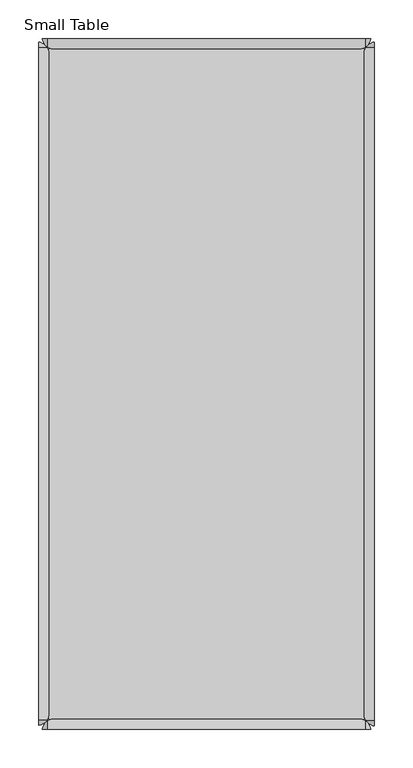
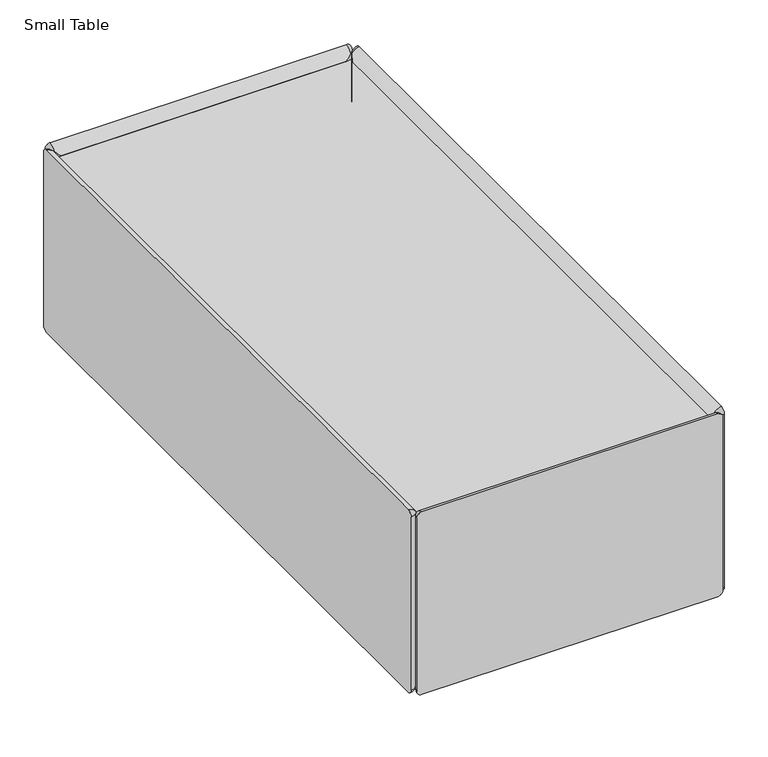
"""IFC4 building model written with IfcOpenShell, lengths in millimetres: furniture geometry, Stylex - Yoom Table : Small Table."""

from ifc_helpers import new_model, si_unit, point, frame, origin, place, context, project, spatial, polyline, circle_curve, ellipse_curve, trimmed, outline, extrude, source, transform, mapped, element, save
from ifc_brep_helpers import plane_surface, cylinder_surface, revolved_surface, advanced_brep


def small_table_ebca47c8(model_context):
    return source(origin(), model_context, "Body", "SolidModel", [
        advanced_brep(
        [(211.4098719, -444.5, 284.9798269), (211.4098719, -444.5, 32.6238748), (204.2643302, -433.6501466, 32.6238748), (197.1223719, -431.7512608, 39.765833), (197.1223719, -431.7512608, 277.8378687), (204.2643302, -433.6501466, 284.9798269), (204.2643302, -444.5, 25.478333), (-204.2643302, -444.5, 25.478333), (-204.2643302, -433.6501466, 32.6238748), (-197.1223719, -431.7512608, 39.765833), (-211.4098719, -444.5, 32.6238748), (-211.4098719, -444.5, 284.9798269), (-204.2643302, -433.6501466, 284.9798269), (-197.1223719, -431.7512608, 277.8378687), (204.2643302, -444.5, 292.1253687), (-204.2643302, -444.5, 292.1253687)],
        [
            (0, 1),
            (1, 2, circle_curve(frame((197.1223719, -446.1316243, 32.6238748), z_axis=(0.0, 0.0, 1.0), x_axis=(1.0, 0.0, 0.0)), 14.3803635)),
            (2, 3, ellipse_curve(frame((197.1223719, -446.1316243, 39.765833), z_axis=(0.7071067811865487, 0.0, 0.7071067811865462), x_axis=(-0.7071067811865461, 0.0, 0.7071067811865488)), 20.3369051, 14.3803635)),
            (3, 4),
            (4, 5, ellipse_curve(frame((197.1223719, -446.1316243, 277.8378687), z_axis=(0.7071067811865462, 0.0, -0.7071067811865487), x_axis=(0.7071067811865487, 0.0, 0.7071067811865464)), 20.3369051, 14.3803635)),
            (5, 0, circle_curve(frame((197.1223719, -446.1316243, 284.9798269), z_axis=(0.0, 0.0, -1.0), x_axis=(1.0, 0.0, 0.0)), 14.3803635)),
            (2, 6, circle_curve(frame((204.2643302, -446.1316243, 39.765833), z_axis=(-1.0, 0.0, 0.0), x_axis=(0.0, 0.0, -1.0)), 14.3803635)),
            (6, 7),
            (7, 8, circle_curve(frame((-204.2643302, -446.1316243, 39.765833), z_axis=(1.0, 0.0, 0.0), x_axis=(0.0, 0.0, -1.0)), 14.3803635)),
            (8, 9, ellipse_curve(frame((-197.1223719, -446.1316243, 39.765833), z_axis=(0.7071067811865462, 0.0, -0.7071067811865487), x_axis=(0.7071067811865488, 0.0, 0.7071067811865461)), 20.3369051, 14.3803635)),
            (9, 3),
            (8, 10, circle_curve(frame((-197.1223719, -446.1316243, 32.6238748), z_axis=(0.0, 0.0, 1.0), x_axis=(-1.0, 0.0, 0.0)), 14.3803635)),
            (10, 11),
            (11, 12, circle_curve(frame((-197.1223719, -446.1316243, 284.9798269), z_axis=(0.0, 0.0, -1.0), x_axis=(-1.0, 0.0, 0.0)), 14.3803635)),
            (12, 13, ellipse_curve(frame((-197.1223719, -446.1316243, 277.8378687), z_axis=(-0.7071067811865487, 0.0, -0.7071067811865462), x_axis=(0.7071067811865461, 0.0, -0.7071067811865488)), 20.3369051, 14.3803635)),
            (13, 9),
            (0, 14, circle_curve(frame((204.2643302, -444.5, 284.9798269), z_axis=(0.0, -1.0, 0.0), x_axis=(0.0, 0.0, 1.0)), 7.1455418)),
            (14, 15),
            (15, 11, circle_curve(frame((-204.2643302, -444.5, 284.9798269), z_axis=(0.0, -1.0, 0.0), x_axis=(0.0, 0.0, 1.0)), 7.1455418)),
            (10, 7, circle_curve(frame((-204.2643302, -444.5, 32.6238748), z_axis=(0.0, -1.0, 0.0), x_axis=(0.0, 0.0, -1.0)), 7.1455418)),
            (6, 1, circle_curve(frame((204.2643302, -444.5, 32.6238748), z_axis=(0.0, -1.0, 0.0), x_axis=(0.0, 0.0, -1.0)), 7.1455418)),
            (12, 15, circle_curve(frame((-204.2643302, -446.1316243, 277.8378687), z_axis=(1.0, 0.0, 0.0), x_axis=(0.0, 0.0, 1.0)), 14.3803635)),
            (14, 5, circle_curve(frame((204.2643302, -446.1316243, 277.8378687), z_axis=(-1.0, 0.0, 0.0), x_axis=(0.0, 0.0, 1.0)), 14.3803635)),
            (4, 13),
        ],
        [
            cylinder_surface(frame((197.1223719, -446.1316243, 277.8378687), z_axis=(0.0, 0.0, 1.0), x_axis=(1.0, 0.0, 0.0)), 14.3803635),
            cylinder_surface(frame((197.1223719, -446.1316243, 39.765833), z_axis=(1.0, 0.0, 0.0), x_axis=(0.0, 0.0, -1.0)), 14.3803635),
            cylinder_surface(frame((-197.1223719, -446.1316243, 39.765833), z_axis=(0.0, 0.0, -1.0), x_axis=(-1.0, 0.0, 0.0)), 14.3803635),
            plane_surface(frame((-197.1223719, -444.5, 277.8378687), z_axis=(0.0, -1.0, 0.0), x_axis=(1.0, 0.0, 0.0))),
            cylinder_surface(frame((-197.1223719, -446.1316243, 277.8378687), z_axis=(-1.0, 0.0, 0.0), x_axis=(0.0, 0.0, 1.0)), 14.3803635),
            revolved_surface(trimmed(ellipse_curve(frame((-204.2643302, -446.1316243, 277.8378687), z_axis=(-1.0, 0.0, 0.0), x_axis=(0.0, 0.0, -1.0)), 14.3803635, 14.3803635), [point((-204.2643302, -444.5, 292.1253687))], [point((-204.2643302, -433.6501466, 284.9798269))], True, "CARTESIAN"), (-204.2643302, -431.7512608, 284.9798269), (0.0, 1.0, 0.0)),
            plane_surface(frame((-197.1223719, -431.7512608, 277.8378687), z_axis=(0.0, 1.0, 0.0), x_axis=(1.0, 0.0, 0.0))),
            revolved_surface(trimmed(ellipse_curve(frame((-204.2643302, -446.1316243, 39.765833), z_axis=(-1.0, 0.0, 0.0), x_axis=(0.0, 0.0, 1.0)), 14.3803635, 14.3803635), [point((-204.2643302, -433.6501466, 32.6238748))], [point((-204.2643302, -444.5, 25.478333))], True, "CARTESIAN"), (-204.2643302, -431.7512608, 32.6238748), (0.0, -1.0, 0.0)),
            revolved_surface(trimmed(ellipse_curve(frame((204.2643302, -446.1316243, 39.765833), z_axis=(1.0, 0.0, 0.0), x_axis=(0.0, 0.0, -1.0)), 14.3803635, 14.3803635), [point((204.2643302, -444.5, 25.478333))], [point((204.2643302, -433.6501466, 32.6238748))], True, "CARTESIAN"), (204.2643302, -431.7512608, 32.6238748), (0.0, 1.0, 0.0)),
            revolved_surface(trimmed(ellipse_curve(frame((204.2643302, -446.1316243, 277.8378687), z_axis=(1.0, 0.0, 0.0), x_axis=(0.0, 0.0, -1.0)), 14.3803635, 14.3803635), [point((204.2643302, -433.6501466, 284.9798269))], [point((204.2643302, -444.5, 292.1253687))], True, "CARTESIAN"), (204.2643302, -431.7512608, 284.9798269), (0.0, -1.0, 0.0)),
        ],
        [
            (0, [[1, 2, 3, 4, 5, 6]]),
            (1, [[-3, 7, 8, 9, 10, 11]]),
            (2, [[-10, 12, 13, 14, 15, 16]]),
            (3, [[-1, 17, 18, 19, -13, 20, -8, 21]]),
            (4, [[-15, 22, -18, 23, -5, 24]]),
            (5, [[-19, -22, -14]]),
            (6, [[-4, -11, -16, -24]]),
            (7, [[-20, -12, -9]]),
            (8, [[-21, -7, -2]]),
            (9, [[-17, -6, -23]]),
        ],
    ),
        advanced_brep(
        [(-211.4098719, 444.5, 284.9798269), (-211.4098719, 444.5, 32.6238748), (-204.2643302, 433.6501466, 32.6238748), (-197.1223719, 431.7512608, 39.765833), (-197.1223719, 431.7512608, 277.8378687), (-204.2643302, 433.6501466, 284.9798269), (-204.2643302, 444.5, 25.478333), (204.2643302, 444.5, 25.478333), (204.2643302, 433.6501466, 32.6238748), (197.1223719, 431.7512608, 39.765833), (211.4098719, 444.5, 32.6238748), (211.4098719, 444.5, 284.9798269), (204.2643302, 433.6501466, 284.9798269), (197.1223719, 431.7512608, 277.8378687), (-204.2643302, 444.5, 292.1253687), (204.2643302, 444.5, 292.1253687)],
        [
            (0, 1),
            (1, 2, circle_curve(frame((-197.1223719, 446.1316243, 32.6238748), z_axis=(0.0, 0.0, 1.0), x_axis=(-1.0, 0.0, 0.0)), 14.3803635)),
            (2, 3, ellipse_curve(frame((-197.1223719, 446.1316243, 39.765833), z_axis=(-0.7071067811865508, 0.0, 0.7071067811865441), x_axis=(0.7071067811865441, 0.0, 0.7071067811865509)), 20.3369051, 14.3803635)),
            (3, 4),
            (4, 5, ellipse_curve(frame((-197.1223719, 446.1316243, 277.8378687), z_axis=(-0.7071067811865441, 0.0, -0.7071067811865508), x_axis=(-0.7071067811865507, 0.0, 0.7071067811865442)), 20.3369051, 14.3803635)),
            (5, 0, circle_curve(frame((-197.1223719, 446.1316243, 284.9798269), z_axis=(0.0, 0.0, -1.0), x_axis=(-1.0, 0.0, 0.0)), 14.3803635)),
            (2, 6, circle_curve(frame((-204.2643302, 446.1316243, 39.765833), z_axis=(1.0, 0.0, 0.0), x_axis=(0.0, 0.0, -1.0)), 14.3803635)),
            (6, 7),
            (7, 8, circle_curve(frame((204.2643302, 446.1316243, 39.765833), z_axis=(-1.0, 0.0, 0.0), x_axis=(0.0, 0.0, -1.0)), 14.3803635)),
            (8, 9, ellipse_curve(frame((197.1223719, 446.1316243, 39.765833), z_axis=(-0.7071067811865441, 0.0, -0.7071067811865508), x_axis=(-0.7071067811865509, 0.0, 0.7071067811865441)), 20.3369051, 14.3803635)),
            (9, 3),
            (8, 10, circle_curve(frame((197.1223719, 446.1316243, 32.6238748), z_axis=(0.0, 0.0, 1.0), x_axis=(1.0, 0.0, 0.0)), 14.3803635)),
            (10, 11),
            (11, 12, circle_curve(frame((197.1223719, 446.1316243, 284.9798269), z_axis=(0.0, 0.0, -1.0), x_axis=(1.0, 0.0, 0.0)), 14.3803635)),
            (12, 13, ellipse_curve(frame((197.1223719, 446.1316243, 277.8378687), z_axis=(0.7071067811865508, 0.0, -0.7071067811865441), x_axis=(-0.7071067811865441, 0.0, -0.7071067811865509)), 20.3369051, 14.3803635)),
            (13, 9),
            (0, 14, circle_curve(frame((-204.2643302, 444.5, 284.9798269), z_axis=(0.0, 1.0, 0.0), x_axis=(0.0, 0.0, 1.0)), 7.1455418)),
            (14, 15),
            (15, 11, circle_curve(frame((204.2643302, 444.5, 284.9798269), z_axis=(0.0, 1.0, 0.0), x_axis=(0.0, 0.0, 1.0)), 7.1455418)),
            (10, 7, circle_curve(frame((204.2643302, 444.5, 32.6238748), z_axis=(0.0, 1.0, 0.0), x_axis=(0.0, 0.0, -1.0)), 7.1455418)),
            (6, 1, circle_curve(frame((-204.2643302, 444.5, 32.6238748), z_axis=(0.0, 1.0, 0.0), x_axis=(0.0, 0.0, -1.0)), 7.1455418)),
            (12, 15, circle_curve(frame((204.2643302, 446.1316243, 277.8378687), z_axis=(-1.0, 0.0, 0.0), x_axis=(0.0, 0.0, 1.0)), 14.3803635)),
            (14, 5, circle_curve(frame((-204.2643302, 446.1316243, 277.8378687), z_axis=(1.0, 0.0, 0.0), x_axis=(0.0, 0.0, 1.0)), 14.3803635)),
            (4, 13),
        ],
        [
            cylinder_surface(frame((-197.1223719, 446.1316243, 277.8378687), z_axis=(0.0, 0.0, 1.0), x_axis=(-1.0, 0.0, 0.0)), 14.3803635),
            cylinder_surface(frame((-197.1223719, 446.1316243, 39.765833), z_axis=(-1.0, 0.0, 0.0), x_axis=(0.0, 0.0, -1.0)), 14.3803635),
            cylinder_surface(frame((197.1223719, 446.1316243, 39.765833), z_axis=(0.0, 0.0, -1.0), x_axis=(1.0, 0.0, 0.0)), 14.3803635),
            plane_surface(frame((197.1223719, 444.5, 277.8378687), z_axis=(0.0, 1.0, 0.0), x_axis=(-1.0, 0.0, 0.0))),
            cylinder_surface(frame((197.1223719, 446.1316243, 277.8378687), z_axis=(1.0, 0.0, 0.0), x_axis=(0.0, 0.0, 1.0)), 14.3803635),
            revolved_surface(trimmed(ellipse_curve(frame((204.2643302, 446.1316243, 277.8378687), z_axis=(1.0, 0.0, 0.0), x_axis=(0.0, 0.0, -1.0)), 14.3803635, 14.3803635), [point((204.2643302, 444.5, 292.1253687))], [point((204.2643302, 433.6501466, 284.9798269))], True, "CARTESIAN"), (204.2643302, 431.7512608, 284.9798269), (0.0, -1.0, 0.0)),
            plane_surface(frame((197.1223719, 431.7512608, 277.8378687), z_axis=(0.0, -1.0, 0.0), x_axis=(-1.0, 0.0, 0.0))),
            revolved_surface(trimmed(ellipse_curve(frame((204.2643302, 446.1316243, 39.765833), z_axis=(1.0, 0.0, 0.0), x_axis=(0.0, 0.0, 1.0)), 14.3803635, 14.3803635), [point((204.2643302, 433.6501466, 32.6238748))], [point((204.2643302, 444.5, 25.478333))], True, "CARTESIAN"), (204.2643302, 431.7512608, 32.6238748), (0.0, 1.0, 0.0)),
            revolved_surface(trimmed(ellipse_curve(frame((-204.2643302, 446.1316243, 39.765833), z_axis=(-1.0, 0.0, 0.0), x_axis=(0.0, 0.0, -1.0)), 14.3803635, 14.3803635), [point((-204.2643302, 444.5, 25.478333))], [point((-204.2643302, 433.6501466, 32.6238748))], True, "CARTESIAN"), (-204.2643302, 431.7512608, 32.6238748), (0.0, -1.0, 0.0)),
            revolved_surface(trimmed(ellipse_curve(frame((-204.2643302, 446.1316243, 277.8378687), z_axis=(-1.0, 0.0, 0.0), x_axis=(0.0, 0.0, -1.0)), 14.3803635, 14.3803635), [point((-204.2643302, 433.6501466, 284.9798269))], [point((-204.2643302, 444.5, 292.1253687))], True, "CARTESIAN"), (-204.2643302, 431.7512608, 284.9798269), (0.0, 1.0, 0.0)),
        ],
        [
            (0, [[1, 2, 3, 4, 5, 6]]),
            (1, [[-3, 7, 8, 9, 10, 11]]),
            (2, [[-10, 12, 13, 14, 15, 16]]),
            (3, [[-1, 17, 18, 19, -13, 20, -8, 21]]),
            (4, [[-15, 22, -18, 23, -5, 24]]),
            (5, [[-19, -22, -14]]),
            (6, [[-4, -11, -16, -24]]),
            (7, [[-20, -12, -9]]),
            (8, [[-21, -7, -2]]),
            (9, [[-17, -6, -23]]),
        ],
    ),
        advanced_brep(
        [(-215.9, 440.0098719, 32.6238748), (-215.9, 440.0098719, 284.9798269), (-205.0501466, 432.8643302, 284.9798269), (-203.1512608, 425.7223719, 277.8378687), (-203.1512608, 425.7223719, 39.765833), (-205.0501466, 432.8643302, 32.6238748), (-215.9, 432.8643302, 292.1253687), (-215.9, -432.1193193, 292.1253687), (-205.0501466, -432.1193193, 284.9798269), (-203.1512608, -424.9773611, 277.8378687), (-215.9, -439.2648611, 284.9798269), (-215.9, -439.2648611, 32.6238748), (-205.0501466, -432.1193193, 32.6238748), (-203.1512608, -424.9773611, 39.765833), (-215.9, 432.8643302, 25.478333), (-215.9, -432.1193193, 25.478333)],
        [
            (0, 1),
            (1, 2, circle_curve(frame((-217.5316243, 425.7223719, 284.9798269), z_axis=(0.0, 0.0, -1.0), x_axis=(0.0, 1.0, 0.0)), 14.3803635)),
            (2, 3, ellipse_curve(frame((-217.5316243, 425.7223719, 277.8378687), z_axis=(0.0, 0.7071067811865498, -0.7071067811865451), x_axis=(0.0, -0.7071067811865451, -0.70710678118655)), 20.3369051, 14.3803635)),
            (3, 4),
            (4, 5, ellipse_curve(frame((-217.5316243, 425.7223719, 39.765833), z_axis=(0.0, 0.7071067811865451, 0.7071067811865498), x_axis=(0.0, 0.7071067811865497, -0.7071067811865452)), 20.3369051, 14.3803635)),
            (5, 0, circle_curve(frame((-217.5316243, 425.7223719, 32.6238748), z_axis=(0.0, 0.0, 1.0), x_axis=(0.0, 1.0, 0.0)), 14.3803635)),
            (2, 6, circle_curve(frame((-217.5316243, 432.8643302, 277.8378687), z_axis=(0.0, -1.0, 0.0), x_axis=(0.0, 0.0, 1.0)), 14.3803635)),
            (6, 7),
            (7, 8, circle_curve(frame((-217.5316243, -432.1193193, 277.8378687), z_axis=(0.0, 1.0, 0.0), x_axis=(0.0, 0.0, 1.0)), 14.3803635)),
            (8, 9, ellipse_curve(frame((-217.5316243, -424.9773611, 277.8378687), z_axis=(0.0, 0.7071067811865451, 0.7071067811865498), x_axis=(0.0, 0.70710678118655, -0.7071067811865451)), 20.3369051, 14.3803635)),
            (9, 3),
            (8, 10, circle_curve(frame((-217.5316243, -424.9773611, 284.9798269), z_axis=(0.0, 0.0, -1.0), x_axis=(0.0, -1.0, 0.0)), 14.3803635)),
            (10, 11),
            (11, 12, circle_curve(frame((-217.5316243, -424.9773611, 32.6238748), z_axis=(0.0, 0.0, 1.0), x_axis=(0.0, -1.0, 0.0)), 14.3803635)),
            (12, 13, ellipse_curve(frame((-217.5316243, -424.9773611, 39.765833), z_axis=(0.0, -0.7071067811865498, 0.7071067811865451), x_axis=(0.0, 0.7071067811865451, 0.70710678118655)), 20.3369051, 14.3803635)),
            (13, 9),
            (0, 14, circle_curve(frame((-215.9, 432.8643302, 32.6238748), z_axis=(-1.0, 0.0, 0.0), x_axis=(0.0, 0.0, -1.0)), 7.1455418)),
            (14, 15),
            (15, 11, circle_curve(frame((-215.9, -432.1193193, 32.6238748), z_axis=(-1.0, 0.0, 0.0), x_axis=(0.0, 0.0, -1.0)), 7.1455418)),
            (10, 7, circle_curve(frame((-215.9, -432.1193193, 284.9798269), z_axis=(-1.0, 0.0, 0.0), x_axis=(0.0, 0.0, 1.0)), 7.1455418)),
            (6, 1, circle_curve(frame((-215.9, 432.8643302, 284.9798269), z_axis=(-1.0, 0.0, 0.0), x_axis=(0.0, 0.0, 1.0)), 7.1455418)),
            (12, 15, circle_curve(frame((-217.5316243, -432.1193193, 39.765833), z_axis=(0.0, 1.0, 0.0), x_axis=(0.0, 0.0, -1.0)), 14.3803635)),
            (14, 5, circle_curve(frame((-217.5316243, 432.8643302, 39.765833), z_axis=(0.0, -1.0, 0.0), x_axis=(0.0, 0.0, -1.0)), 14.3803635)),
            (4, 13),
        ],
        [
            cylinder_surface(frame((-217.5316243, 425.7223719, 39.765833), z_axis=(0.0, 0.0, -1.0), x_axis=(0.0, 1.0, 0.0)), 14.3803635),
            cylinder_surface(frame((-217.5316243, 425.7223719, 277.8378687), z_axis=(0.0, 1.0, 0.0), x_axis=(0.0, 0.0, 1.0)), 14.3803635),
            cylinder_surface(frame((-217.5316243, -424.9773611, 277.8378687), z_axis=(0.0, 0.0, 1.0), x_axis=(0.0, -1.0, 0.0)), 14.3803635),
            plane_surface(frame((-215.9, -424.9773611, 39.765833), z_axis=(-1.0, 0.0, 0.0), x_axis=(0.0, 1.0, 0.0))),
            cylinder_surface(frame((-217.5316243, -424.9773611, 39.765833), z_axis=(0.0, -1.0, 0.0), x_axis=(0.0, 0.0, -1.0)), 14.3803635),
            revolved_surface(trimmed(ellipse_curve(frame((-217.5316243, -432.1193193, 39.765833), z_axis=(0.0, -1.0, 0.0), x_axis=(0.0, 0.0, 1.0)), 14.3803635, 14.3803635), [point((-215.9, -432.1193193, 25.478333))], [point((-205.0501466, -432.1193193, 32.6238748))], True, "CARTESIAN"), (-203.1512608, -432.1193193, 32.6238748), (1.0, 0.0, 0.0)),
            plane_surface(frame((-203.1512608, -424.9773611, 39.765833), z_axis=(1.0, 0.0, 0.0), x_axis=(0.0, 1.0, 0.0))),
            revolved_surface(trimmed(ellipse_curve(frame((-217.5316243, -432.1193193, 277.8378687), z_axis=(0.0, -1.0, 0.0), x_axis=(0.0, 0.0, -1.0)), 14.3803635, 14.3803635), [point((-205.0501466, -432.1193193, 284.9798269))], [point((-215.9, -432.1193193, 292.1253687))], True, "CARTESIAN"), (-203.1512608, -432.1193193, 284.9798269), (-1.0, 0.0, 0.0)),
            revolved_surface(trimmed(ellipse_curve(frame((-217.5316243, 432.8643302, 277.8378687), z_axis=(0.0, 1.0, 0.0), x_axis=(0.0, 0.0, 1.0)), 14.3803635, 14.3803635), [point((-215.9, 432.8643302, 292.1253687))], [point((-205.0501466, 432.8643302, 284.9798269))], True, "CARTESIAN"), (-203.1512608, 432.8643302, 284.9798269), (1.0, 0.0, 0.0)),
            revolved_surface(trimmed(ellipse_curve(frame((-217.5316243, 432.8643302, 39.765833), z_axis=(0.0, 1.0, 0.0), x_axis=(0.0, 0.0, 1.0)), 14.3803635, 14.3803635), [point((-205.0501466, 432.8643302, 32.6238748))], [point((-215.9, 432.8643302, 25.478333))], True, "CARTESIAN"), (-203.1512608, 432.8643302, 32.6238748), (-1.0, 0.0, 0.0)),
        ],
        [
            (0, [[1, 2, 3, 4, 5, 6]]),
            (1, [[-3, 7, 8, 9, 10, 11]]),
            (2, [[-10, 12, 13, 14, 15, 16]]),
            (3, [[-1, 17, 18, 19, -13, 20, -8, 21]]),
            (4, [[-15, 22, -18, 23, -5, 24]]),
            (5, [[-19, -22, -14]]),
            (6, [[-4, -11, -16, -24]]),
            (7, [[-20, -12, -9]]),
            (8, [[-21, -7, -2]]),
            (9, [[-17, -6, -23]]),
        ],
    ),
        advanced_brep(
        [(215.9, -440.0098719, 32.4979399), (215.9, -440.0098719, 284.8538921), (205.0501466, -432.8643302, 284.8538921), (203.1512608, -425.7223719, 277.7119339), (203.1512608, -425.7223719, 39.6398982), (205.0501466, -432.8643302, 32.4979399), (215.9, -432.8643302, 291.9994339), (215.9, 432.8643302, 291.9994339), (205.0501466, 432.8643302, 284.8538921), (203.1512608, 425.7223719, 277.7119339), (215.9, 440.0098719, 284.8538921), (215.9, 440.0098719, 32.4979399), (205.0501466, 432.8643302, 32.4979399), (203.1512608, 425.7223719, 39.6398982), (215.9, -432.8643302, 25.3523982), (215.9, 432.8643302, 25.3523982)],
        [
            (0, 1),
            (1, 2, circle_curve(frame((217.5316243, -425.7223719, 284.8538921), z_axis=(0.0, 0.0, -1.0), x_axis=(0.0, -1.0, 0.0)), 14.3803635)),
            (2, 3, ellipse_curve(frame((217.5316243, -425.7223719, 277.7119339), z_axis=(0.0, -0.7071067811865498, -0.7071067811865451), x_axis=(0.0, 0.7071067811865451, -0.70710678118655)), 20.3369051, 14.3803635)),
            (3, 4),
            (4, 5, ellipse_curve(frame((217.5316243, -425.7223719, 39.6398982), z_axis=(0.0, -0.7071067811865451, 0.7071067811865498), x_axis=(0.0, -0.7071067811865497, -0.7071067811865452)), 20.3369051, 14.3803635)),
            (5, 0, circle_curve(frame((217.5316243, -425.7223719, 32.4979399), z_axis=(0.0, 0.0, 1.0), x_axis=(0.0, -1.0, 0.0)), 14.3803635)),
            (2, 6, circle_curve(frame((217.5316243, -432.8643302, 277.7119339), z_axis=(0.0, 1.0, 0.0), x_axis=(0.0, 0.0, 1.0)), 14.3803635)),
            (6, 7),
            (7, 8, circle_curve(frame((217.5316243, 432.8643302, 277.7119339), z_axis=(0.0, -1.0, 0.0), x_axis=(0.0, 0.0, 1.0)), 14.3803635)),
            (8, 9, ellipse_curve(frame((217.5316243, 425.7223719, 277.7119339), z_axis=(0.0, -0.7071067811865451, 0.7071067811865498), x_axis=(0.0, -0.70710678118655, -0.7071067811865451)), 20.3369051, 14.3803635)),
            (9, 3),
            (8, 10, circle_curve(frame((217.5316243, 425.7223719, 284.8538921), z_axis=(0.0, 0.0, -1.0), x_axis=(0.0, 1.0, 0.0)), 14.3803635)),
            (10, 11),
            (11, 12, circle_curve(frame((217.5316243, 425.7223719, 32.4979399), z_axis=(0.0, 0.0, 1.0), x_axis=(0.0, 1.0, 0.0)), 14.3803635)),
            (12, 13, ellipse_curve(frame((217.5316243, 425.7223719, 39.6398982), z_axis=(0.0, 0.7071067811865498, 0.7071067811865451), x_axis=(0.0, -0.7071067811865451, 0.70710678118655)), 20.3369051, 14.3803635)),
            (13, 9),
            (0, 14, circle_curve(frame((215.9, -432.8643302, 32.4979399), z_axis=(1.0, 0.0, 0.0), x_axis=(0.0, 0.0, -1.0)), 7.1455418)),
            (14, 15),
            (15, 11, circle_curve(frame((215.9, 432.8643302, 32.4979399), z_axis=(1.0, 0.0, 0.0), x_axis=(0.0, 0.0, -1.0)), 7.1455418)),
            (10, 7, circle_curve(frame((215.9, 432.8643302, 284.8538921), z_axis=(1.0, 0.0, 0.0), x_axis=(0.0, 0.0, 1.0)), 7.1455418)),
            (6, 1, circle_curve(frame((215.9, -432.8643302, 284.8538921), z_axis=(1.0, 0.0, 0.0), x_axis=(0.0, 0.0, 1.0)), 7.1455418)),
            (12, 15, circle_curve(frame((217.5316243, 432.8643302, 39.6398982), z_axis=(0.0, -1.0, 0.0), x_axis=(0.0, 0.0, -1.0)), 14.3803635)),
            (14, 5, circle_curve(frame((217.5316243, -432.8643302, 39.6398982), z_axis=(0.0, 1.0, 0.0), x_axis=(0.0, 0.0, -1.0)), 14.3803635)),
            (4, 13),
        ],
        [
            cylinder_surface(frame((217.5316243, -425.7223719, 39.6398982), z_axis=(0.0, 0.0, -1.0), x_axis=(0.0, -1.0, 0.0)), 14.3803635),
            cylinder_surface(frame((217.5316243, -425.7223719, 277.7119339), z_axis=(0.0, -1.0, 0.0), x_axis=(0.0, 0.0, 1.0)), 14.3803635),
            cylinder_surface(frame((217.5316243, 425.7223719, 277.7119339), z_axis=(0.0, 0.0, 1.0), x_axis=(0.0, 1.0, 0.0)), 14.3803635),
            plane_surface(frame((215.9, 425.7223719, 39.6398982), z_axis=(1.0, 0.0, 0.0), x_axis=(0.0, -1.0, 0.0))),
            cylinder_surface(frame((217.5316243, 425.7223719, 39.6398982), z_axis=(0.0, 1.0, 0.0), x_axis=(0.0, 0.0, -1.0)), 14.3803635),
            revolved_surface(trimmed(ellipse_curve(frame((217.5316243, 432.8643302, 39.6398982), z_axis=(0.0, 1.0, 0.0), x_axis=(0.0, 0.0, 1.0)), 14.3803635, 14.3803635), [point((215.9, 432.8643302, 25.3523982))], [point((205.0501466, 432.8643302, 32.4979399))], True, "CARTESIAN"), (203.1512608, 432.8643302, 32.4979399), (-1.0, 0.0, 0.0)),
            plane_surface(frame((203.1512608, 425.7223719, 39.6398982), z_axis=(-1.0, 0.0, 0.0), x_axis=(0.0, -1.0, 0.0))),
            revolved_surface(trimmed(ellipse_curve(frame((217.5316243, 432.8643302, 277.7119339), z_axis=(0.0, 1.0, 0.0), x_axis=(0.0, 0.0, -1.0)), 14.3803635, 14.3803635), [point((205.0501466, 432.8643302, 284.8538921))], [point((215.9, 432.8643302, 291.9994339))], True, "CARTESIAN"), (203.1512608, 432.8643302, 284.8538921), (1.0, 0.0, 0.0)),
            revolved_surface(trimmed(ellipse_curve(frame((217.5316243, -432.8643302, 277.7119339), z_axis=(0.0, -1.0, 0.0), x_axis=(0.0, 0.0, 1.0)), 14.3803635, 14.3803635), [point((215.9, -432.8643302, 291.9994339))], [point((205.0501466, -432.8643302, 284.8538921))], True, "CARTESIAN"), (203.1512608, -432.8643302, 284.8538921), (-1.0, 0.0, 0.0)),
            revolved_surface(trimmed(ellipse_curve(frame((217.5316243, -432.8643302, 39.6398982), z_axis=(0.0, -1.0, 0.0), x_axis=(0.0, 0.0, 1.0)), 14.3803635, 14.3803635), [point((205.0501466, -432.8643302, 32.4979399))], [point((215.9, -432.8643302, 25.3523982))], True, "CARTESIAN"), (203.1512608, -432.8643302, 32.4979399), (1.0, 0.0, 0.0)),
        ],
        [
            (0, [[1, 2, 3, 4, 5, 6]]),
            (1, [[-3, 7, 8, 9, 10, 11]]),
            (2, [[-10, 12, 13, 14, 15, 16]]),
            (3, [[-1, 17, 18, 19, -13, 20, -8, 21]]),
            (4, [[-15, 22, -18, 23, -5, 24]]),
            (5, [[-19, -22, -14]]),
            (6, [[-4, -11, -16, -24]]),
            (7, [[-20, -12, -9]]),
            (8, [[-21, -7, -2]]),
            (9, [[-17, -6, -23]]),
        ],
    ),
        advanced_brep(
        [(-72.8292652, -339.725, 32.7025006), (-136.7725901, -339.725, 32.7025006), (-104.8009276, -339.725, 32.7025006), (-72.8292652, -339.725, 15.461663), (-136.7725901, -339.725, 15.461663), (-80.9884276, -339.725, 7.3025006), (-128.6134276, -339.725, 7.3025006), (-80.9884276, -339.725, 4.7625006), (-128.6134276, -339.725, 4.7625006), (-82.5759276, -339.725, 4.7625006), (-127.0259276, -339.725, 4.7625006), (-82.5759276, -339.725, 6e-07), (-127.0259276, -339.725, 6e-07), (-104.8009276, -339.725, 6e-07)],
        [
            (0, 1, circle_curve(frame((-104.8009276, -339.725, 32.7025006), z_axis=(0.0, 0.0, 1.0), x_axis=(-1.0, 0.0, 0.0)), 31.9716624)),
            (1, 2),
            (2, 0),
            (1, 0, circle_curve(frame((-104.8009276, -339.725, 32.7025006), z_axis=(0.0, 0.0, 1.0), x_axis=(-1.0, 0.0, 0.0)), 31.9716624)),
            (3, 4, circle_curve(frame((-104.8009276, -339.725, 15.461663), z_axis=(0.0, 0.0, 1.0), x_axis=(-1.0, 0.0, 0.0)), 31.9716624)),
            (4, 1),
            (0, 3),
            (4, 3, circle_curve(frame((-104.8009276, -339.725, 15.461663), z_axis=(0.0, 0.0, 1.0), x_axis=(-1.0, 0.0, 0.0)), 31.9716624)),
            (5, 6, circle_curve(frame((-104.8009276, -339.725, 7.3025006), z_axis=(0.0, 0.0, 1.0), x_axis=(-1.0, 0.0, 0.0)), 23.8125)),
            (6, 4, circle_curve(frame((-128.6134276, -339.725, 15.461663), z_axis=(0.0, 1.0, 0.0), x_axis=(1.0, 0.0, 0.0)), 8.1591624)),
            (3, 5, circle_curve(frame((-80.9884276, -339.725, 15.461663), z_axis=(0.0, 1.0, 0.0), x_axis=(-1.0, 0.0, 0.0)), 8.1591624)),
            (6, 5, circle_curve(frame((-104.8009276, -339.725, 7.3025006), z_axis=(0.0, 0.0, 1.0), x_axis=(-1.0, 0.0, 0.0)), 23.8125)),
            (7, 8, circle_curve(frame((-104.8009276, -339.725, 4.7625006), z_axis=(0.0, 0.0, 1.0), x_axis=(-1.0, 0.0, 0.0)), 23.8125)),
            (8, 6),
            (5, 7),
            (8, 7, circle_curve(frame((-104.8009276, -339.725, 4.7625006), z_axis=(0.0, 0.0, 1.0), x_axis=(-1.0, 0.0, 0.0)), 23.8125)),
            (9, 10, circle_curve(frame((-104.8009276, -339.725, 4.7625006), z_axis=(0.0, 0.0, 1.0), x_axis=(-1.0, 0.0, 0.0)), 22.225)),
            (10, 8),
            (7, 9),
            (10, 9, circle_curve(frame((-104.8009276, -339.725, 4.7625006), z_axis=(0.0, 0.0, 1.0), x_axis=(-1.0, 0.0, 0.0)), 22.225)),
            (11, 12, circle_curve(frame((-104.8009276, -339.725, 6e-07), z_axis=(0.0, 0.0, 1.0), x_axis=(-1.0, 0.0, 0.0)), 22.225)),
            (12, 10),
            (9, 11),
            (12, 11, circle_curve(frame((-104.8009276, -339.725, 6e-07), z_axis=(0.0, 0.0, 1.0), x_axis=(-1.0, 0.0, 0.0)), 22.225)),
            (13, 12),
            (11, 13),
        ],
        [
            plane_surface(frame((-104.8009276, -339.725, 32.7025006), z_axis=(0.0, 0.0, 1.0), x_axis=(-1.0, 0.0, 0.0))),
            cylinder_surface(frame((-104.8009276, -339.725, 6e-07), z_axis=(0.0, 0.0, -1.0), x_axis=(-1.0, 0.0, 0.0)), 31.9716624),
            revolved_surface(trimmed(ellipse_curve(frame((-128.6134276, -339.725, 15.461663), z_axis=(0.0, -1.0, 0.0), x_axis=(1.0, 0.0, 0.0)), 8.1591624, 8.1591624), [point((-136.7725901, -339.725, 15.461663))], [point((-128.6134276, -339.725, 7.3025006))], True, "CARTESIAN"), (-104.8009276, -339.725, 6e-07), (0.0, 0.0, -1.0)),
            cylinder_surface(frame((-104.8009276, -339.725, 6e-07), z_axis=(0.0, 0.0, -1.0), x_axis=(-1.0, 0.0, 0.0)), 23.8125),
            plane_surface(frame((-104.8009276, -339.725, 4.7625006), z_axis=(0.0, 0.0, -1.0), x_axis=(-1.0, 0.0, 0.0))),
            cylinder_surface(frame((-104.8009276, -339.725, 6e-07), z_axis=(0.0, 0.0, -1.0), x_axis=(-1.0, 0.0, 0.0)), 22.225),
            plane_surface(frame((-104.8009276, -339.725, 6e-07), z_axis=(0.0, 0.0, -1.0), x_axis=(-1.0, 0.0, 0.0))),
        ],
        [
            (0, [[1, 2, 3]]),
            (0, [[4, -3, -2]]),
            (1, [[5, 6, -1, 7]]),
            (1, [[8, -7, -4, -6]]),
            (2, [[9, 10, -5, 11]]),
            (2, [[12, -11, -8, -10]]),
            (3, [[13, 14, -9, 15]]),
            (3, [[16, -15, -12, -14]]),
            (4, [[17, 18, -13, 19]]),
            (4, [[20, -19, -16, -18]]),
            (5, [[21, 22, -17, 23]]),
            (5, [[24, -23, -20, -22]]),
            (6, [[25, -21, 26]]),
            (6, [[-26, -24, -25]]),
        ],
    ),
        advanced_brep(
        [(136.7725901, -339.725, 32.7025006), (72.8292652, -339.725, 32.7025006), (104.8009276, -339.725, 32.7025006), (136.7725901, -339.725, 15.461663), (72.8292652, -339.725, 15.461663), (128.6134276, -339.725, 7.3025006), (80.9884276, -339.725, 7.3025006), (128.6134276, -339.725, 4.7625006), (80.9884276, -339.725, 4.7625006), (127.0259276, -339.725, 4.7625006), (82.5759276, -339.725, 4.7625006), (127.0259276, -339.725, 6e-07), (82.5759276, -339.725, 6e-07), (104.8009276, -339.725, 6e-07)],
        [
            (0, 1, circle_curve(frame((104.8009276, -339.725, 32.7025006), z_axis=(0.0, 0.0, 1.0), x_axis=(-1.0, 0.0, 0.0)), 31.9716624)),
            (1, 2),
            (2, 0),
            (1, 0, circle_curve(frame((104.8009276, -339.725, 32.7025006), z_axis=(0.0, 0.0, 1.0), x_axis=(-1.0, 0.0, 0.0)), 31.9716624)),
            (3, 4, circle_curve(frame((104.8009276, -339.725, 15.461663), z_axis=(0.0, 0.0, 1.0), x_axis=(-1.0, 0.0, 0.0)), 31.9716624)),
            (4, 1),
            (0, 3),
            (4, 3, circle_curve(frame((104.8009276, -339.725, 15.461663), z_axis=(0.0, 0.0, 1.0), x_axis=(-1.0, 0.0, 0.0)), 31.9716624)),
            (5, 6, circle_curve(frame((104.8009276, -339.725, 7.3025006), z_axis=(0.0, 0.0, 1.0), x_axis=(-1.0, 0.0, 0.0)), 23.8125)),
            (6, 4, circle_curve(frame((80.9884276, -339.725, 15.461663), z_axis=(0.0, 1.0, 0.0), x_axis=(1.0, 0.0, 0.0)), 8.1591624)),
            (3, 5, circle_curve(frame((128.6134276, -339.725, 15.461663), z_axis=(0.0, 1.0, 0.0), x_axis=(-1.0, 0.0, 0.0)), 8.1591624)),
            (6, 5, circle_curve(frame((104.8009276, -339.725, 7.3025006), z_axis=(0.0, 0.0, 1.0), x_axis=(-1.0, 0.0, 0.0)), 23.8125)),
            (7, 8, circle_curve(frame((104.8009276, -339.725, 4.7625006), z_axis=(0.0, 0.0, 1.0), x_axis=(-1.0, 0.0, 0.0)), 23.8125)),
            (8, 6),
            (5, 7),
            (8, 7, circle_curve(frame((104.8009276, -339.725, 4.7625006), z_axis=(0.0, 0.0, 1.0), x_axis=(-1.0, 0.0, 0.0)), 23.8125)),
            (9, 10, circle_curve(frame((104.8009276, -339.725, 4.7625006), z_axis=(0.0, 0.0, 1.0), x_axis=(-1.0, 0.0, 0.0)), 22.225)),
            (10, 8),
            (7, 9),
            (10, 9, circle_curve(frame((104.8009276, -339.725, 4.7625006), z_axis=(0.0, 0.0, 1.0), x_axis=(-1.0, 0.0, 0.0)), 22.225)),
            (11, 12, circle_curve(frame((104.8009276, -339.725, 6e-07), z_axis=(0.0, 0.0, 1.0), x_axis=(-1.0, 0.0, 0.0)), 22.225)),
            (12, 10),
            (9, 11),
            (12, 11, circle_curve(frame((104.8009276, -339.725, 6e-07), z_axis=(0.0, 0.0, 1.0), x_axis=(-1.0, 0.0, 0.0)), 22.225)),
            (13, 12),
            (11, 13),
        ],
        [
            plane_surface(frame((104.8009276, -339.725, 32.7025006), z_axis=(0.0, 0.0, 1.0), x_axis=(-1.0, 0.0, 0.0))),
            cylinder_surface(frame((104.8009276, -339.725, 6e-07), z_axis=(0.0, 0.0, -1.0), x_axis=(-1.0, 0.0, 0.0)), 31.9716624),
            revolved_surface(trimmed(ellipse_curve(frame((80.9884276, -339.725, 15.461663), z_axis=(0.0, -1.0, 0.0), x_axis=(1.0, 0.0, 0.0)), 8.1591624, 8.1591624), [point((72.8292652, -339.725, 15.461663))], [point((80.9884276, -339.725, 7.3025006))], True, "CARTESIAN"), (104.8009276, -339.725, 6e-07), (0.0, 0.0, -1.0)),
            cylinder_surface(frame((104.8009276, -339.725, 6e-07), z_axis=(0.0, 0.0, -1.0), x_axis=(-1.0, 0.0, 0.0)), 23.8125),
            plane_surface(frame((104.8009276, -339.725, 4.7625006), z_axis=(0.0, 0.0, -1.0), x_axis=(-1.0, 0.0, 0.0))),
            cylinder_surface(frame((104.8009276, -339.725, 6e-07), z_axis=(0.0, 0.0, -1.0), x_axis=(-1.0, 0.0, 0.0)), 22.225),
            plane_surface(frame((104.8009276, -339.725, 6e-07), z_axis=(0.0, 0.0, -1.0), x_axis=(-1.0, 0.0, 0.0))),
        ],
        [
            (0, [[1, 2, 3]]),
            (0, [[4, -3, -2]]),
            (1, [[5, 6, -1, 7]]),
            (1, [[8, -7, -4, -6]]),
            (2, [[9, 10, -5, 11]]),
            (2, [[12, -11, -8, -10]]),
            (3, [[13, 14, -9, 15]]),
            (3, [[16, -15, -12, -14]]),
            (4, [[17, 18, -13, 19]]),
            (4, [[20, -19, -16, -18]]),
            (5, [[21, 22, -17, 23]]),
            (5, [[24, -23, -20, -22]]),
            (6, [[25, -21, 26]]),
            (6, [[-26, -24, -25]]),
        ],
    ),
        advanced_brep(
        [(136.7725901, 339.725, 32.7025006), (72.8292652, 339.725, 32.7025006), (104.8009276, 339.725, 32.7025006), (136.7725901, 339.725, 15.461663), (72.8292652, 339.725, 15.461663), (128.6134276, 339.725, 7.3025006), (80.9884276, 339.725, 7.3025006), (128.6134276, 339.725, 4.7625006), (80.9884276, 339.725, 4.7625006), (127.0259276, 339.725, 4.7625006), (82.5759276, 339.725, 4.7625006), (127.0259276, 339.725, 6e-07), (82.5759276, 339.725, 6e-07), (104.8009276, 339.725, 6e-07)],
        [
            (0, 1, circle_curve(frame((104.8009276, 339.725, 32.7025006), z_axis=(0.0, 0.0, 1.0), x_axis=(-1.0, 0.0, 0.0)), 31.9716624)),
            (1, 2),
            (2, 0),
            (1, 0, circle_curve(frame((104.8009276, 339.725, 32.7025006), z_axis=(0.0, 0.0, 1.0), x_axis=(-1.0, 0.0, 0.0)), 31.9716624)),
            (3, 4, circle_curve(frame((104.8009276, 339.725, 15.461663), z_axis=(0.0, 0.0, 1.0), x_axis=(-1.0, 0.0, 0.0)), 31.9716624)),
            (4, 1),
            (0, 3),
            (4, 3, circle_curve(frame((104.8009276, 339.725, 15.461663), z_axis=(0.0, 0.0, 1.0), x_axis=(-1.0, 0.0, 0.0)), 31.9716624)),
            (5, 6, circle_curve(frame((104.8009276, 339.725, 7.3025006), z_axis=(0.0, 0.0, 1.0), x_axis=(-1.0, 0.0, 0.0)), 23.8125)),
            (6, 4, circle_curve(frame((80.9884276, 339.725, 15.461663), z_axis=(0.0, 1.0, 0.0), x_axis=(1.0, 0.0, 0.0)), 8.1591624)),
            (3, 5, circle_curve(frame((128.6134276, 339.725, 15.461663), z_axis=(0.0, 1.0, 0.0), x_axis=(-1.0, 0.0, 0.0)), 8.1591624)),
            (6, 5, circle_curve(frame((104.8009276, 339.725, 7.3025006), z_axis=(0.0, 0.0, 1.0), x_axis=(-1.0, 0.0, 0.0)), 23.8125)),
            (7, 8, circle_curve(frame((104.8009276, 339.725, 4.7625006), z_axis=(0.0, 0.0, 1.0), x_axis=(-1.0, 0.0, 0.0)), 23.8125)),
            (8, 6),
            (5, 7),
            (8, 7, circle_curve(frame((104.8009276, 339.725, 4.7625006), z_axis=(0.0, 0.0, 1.0), x_axis=(-1.0, 0.0, 0.0)), 23.8125)),
            (9, 10, circle_curve(frame((104.8009276, 339.725, 4.7625006), z_axis=(0.0, 0.0, 1.0), x_axis=(-1.0, 0.0, 0.0)), 22.225)),
            (10, 8),
            (7, 9),
            (10, 9, circle_curve(frame((104.8009276, 339.725, 4.7625006), z_axis=(0.0, 0.0, 1.0), x_axis=(-1.0, 0.0, 0.0)), 22.225)),
            (11, 12, circle_curve(frame((104.8009276, 339.725, 6e-07), z_axis=(0.0, 0.0, 1.0), x_axis=(-1.0, 0.0, 0.0)), 22.225)),
            (12, 10),
            (9, 11),
            (12, 11, circle_curve(frame((104.8009276, 339.725, 6e-07), z_axis=(0.0, 0.0, 1.0), x_axis=(-1.0, 0.0, 0.0)), 22.225)),
            (13, 12),
            (11, 13),
        ],
        [
            plane_surface(frame((104.8009276, 339.725, 32.7025006), z_axis=(0.0, 0.0, 1.0), x_axis=(-1.0, 0.0, 0.0))),
            cylinder_surface(frame((104.8009276, 339.725, 6e-07), z_axis=(0.0, 0.0, -1.0), x_axis=(-1.0, 0.0, 0.0)), 31.9716624),
            revolved_surface(trimmed(ellipse_curve(frame((80.9884276, 339.725, 15.461663), z_axis=(0.0, -1.0, 0.0), x_axis=(1.0, 0.0, 0.0)), 8.1591624, 8.1591624), [point((72.8292652, 339.725, 15.461663))], [point((80.9884276, 339.725, 7.3025006))], True, "CARTESIAN"), (104.8009276, 339.725, 6e-07), (0.0, 0.0, -1.0)),
            cylinder_surface(frame((104.8009276, 339.725, 6e-07), z_axis=(0.0, 0.0, -1.0), x_axis=(-1.0, 0.0, 0.0)), 23.8125),
            plane_surface(frame((104.8009276, 339.725, 4.7625006), z_axis=(0.0, 0.0, -1.0), x_axis=(-1.0, 0.0, 0.0))),
            cylinder_surface(frame((104.8009276, 339.725, 6e-07), z_axis=(0.0, 0.0, -1.0), x_axis=(-1.0, 0.0, 0.0)), 22.225),
            plane_surface(frame((104.8009276, 339.725, 6e-07), z_axis=(0.0, 0.0, -1.0), x_axis=(-1.0, 0.0, 0.0))),
        ],
        [
            (0, [[1, 2, 3]]),
            (0, [[4, -3, -2]]),
            (1, [[5, 6, -1, 7]]),
            (1, [[8, -7, -4, -6]]),
            (2, [[9, 10, -5, 11]]),
            (2, [[12, -11, -8, -10]]),
            (3, [[13, 14, -9, 15]]),
            (3, [[16, -15, -12, -14]]),
            (4, [[17, 18, -13, 19]]),
            (4, [[20, -19, -16, -18]]),
            (5, [[21, 22, -17, 23]]),
            (5, [[24, -23, -20, -22]]),
            (6, [[25, -21, 26]]),
            (6, [[-26, -24, -25]]),
        ],
    ),
        advanced_brep(
        [(-72.8292652, 339.725, 32.7025006), (-136.7725901, 339.725, 32.7025006), (-104.8009276, 339.725, 32.7025006), (-72.8292652, 339.725, 15.461663), (-136.7725901, 339.725, 15.461663), (-80.9884276, 339.725, 7.3025006), (-128.6134276, 339.725, 7.3025006), (-80.9884276, 339.725, 4.7625006), (-128.6134276, 339.725, 4.7625006), (-82.5759276, 339.725, 4.7625006), (-127.0259276, 339.725, 4.7625006), (-82.5759276, 339.725, 6e-07), (-127.0259276, 339.725, 6e-07), (-104.8009276, 339.725, 6e-07)],
        [
            (0, 1, circle_curve(frame((-104.8009276, 339.725, 32.7025006), z_axis=(0.0, 0.0, 1.0), x_axis=(-1.0, 0.0, 0.0)), 31.9716624)),
            (1, 2),
            (2, 0),
            (1, 0, circle_curve(frame((-104.8009276, 339.725, 32.7025006), z_axis=(0.0, 0.0, 1.0), x_axis=(-1.0, 0.0, 0.0)), 31.9716624)),
            (3, 4, circle_curve(frame((-104.8009276, 339.725, 15.461663), z_axis=(0.0, 0.0, 1.0), x_axis=(-1.0, 0.0, 0.0)), 31.9716624)),
            (4, 1),
            (0, 3),
            (4, 3, circle_curve(frame((-104.8009276, 339.725, 15.461663), z_axis=(0.0, 0.0, 1.0), x_axis=(-1.0, 0.0, 0.0)), 31.9716624)),
            (5, 6, circle_curve(frame((-104.8009276, 339.725, 7.3025006), z_axis=(0.0, 0.0, 1.0), x_axis=(-1.0, 0.0, 0.0)), 23.8125)),
            (6, 4, circle_curve(frame((-128.6134276, 339.725, 15.461663), z_axis=(0.0, 1.0, 0.0), x_axis=(1.0, 0.0, 0.0)), 8.1591624)),
            (3, 5, circle_curve(frame((-80.9884276, 339.725, 15.461663), z_axis=(0.0, 1.0, 0.0), x_axis=(-1.0, 0.0, 0.0)), 8.1591624)),
            (6, 5, circle_curve(frame((-104.8009276, 339.725, 7.3025006), z_axis=(0.0, 0.0, 1.0), x_axis=(-1.0, 0.0, 0.0)), 23.8125)),
            (7, 8, circle_curve(frame((-104.8009276, 339.725, 4.7625006), z_axis=(0.0, 0.0, 1.0), x_axis=(-1.0, 0.0, 0.0)), 23.8125)),
            (8, 6),
            (5, 7),
            (8, 7, circle_curve(frame((-104.8009276, 339.725, 4.7625006), z_axis=(0.0, 0.0, 1.0), x_axis=(-1.0, 0.0, 0.0)), 23.8125)),
            (9, 10, circle_curve(frame((-104.8009276, 339.725, 4.7625006), z_axis=(0.0, 0.0, 1.0), x_axis=(-1.0, 0.0, 0.0)), 22.225)),
            (10, 8),
            (7, 9),
            (10, 9, circle_curve(frame((-104.8009276, 339.725, 4.7625006), z_axis=(0.0, 0.0, 1.0), x_axis=(-1.0, 0.0, 0.0)), 22.225)),
            (11, 12, circle_curve(frame((-104.8009276, 339.725, 6e-07), z_axis=(0.0, 0.0, 1.0), x_axis=(-1.0, 0.0, 0.0)), 22.225)),
            (12, 10),
            (9, 11),
            (12, 11, circle_curve(frame((-104.8009276, 339.725, 6e-07), z_axis=(0.0, 0.0, 1.0), x_axis=(-1.0, 0.0, 0.0)), 22.225)),
            (13, 12),
            (11, 13),
        ],
        [
            plane_surface(frame((-104.8009276, 339.725, 32.7025006), z_axis=(0.0, 0.0, 1.0), x_axis=(-1.0, 0.0, 0.0))),
            cylinder_surface(frame((-104.8009276, 339.725, 6e-07), z_axis=(0.0, 0.0, -1.0), x_axis=(-1.0, 0.0, 0.0)), 31.9716624),
            revolved_surface(trimmed(ellipse_curve(frame((-128.6134276, 339.725, 15.461663), z_axis=(0.0, -1.0, 0.0), x_axis=(1.0, 0.0, 0.0)), 8.1591624, 8.1591624), [point((-136.7725901, 339.725, 15.461663))], [point((-128.6134276, 339.725, 7.3025006))], True, "CARTESIAN"), (-104.8009276, 339.725, 6e-07), (0.0, 0.0, -1.0)),
            cylinder_surface(frame((-104.8009276, 339.725, 6e-07), z_axis=(0.0, 0.0, -1.0), x_axis=(-1.0, 0.0, 0.0)), 23.8125),
            plane_surface(frame((-104.8009276, 339.725, 4.7625006), z_axis=(0.0, 0.0, -1.0), x_axis=(-1.0, 0.0, 0.0))),
            cylinder_surface(frame((-104.8009276, 339.725, 6e-07), z_axis=(0.0, 0.0, -1.0), x_axis=(-1.0, 0.0, 0.0)), 22.225),
            plane_surface(frame((-104.8009276, 339.725, 6e-07), z_axis=(0.0, 0.0, -1.0), x_axis=(-1.0, 0.0, 0.0))),
        ],
        [
            (0, [[1, 2, 3]]),
            (0, [[4, -3, -2]]),
            (1, [[5, 6, -1, 7]]),
            (1, [[8, -7, -4, -6]]),
            (2, [[9, 10, -5, 11]]),
            (2, [[12, -11, -8, -10]]),
            (3, [[13, 14, -9, 15]]),
            (3, [[16, -15, -12, -14]]),
            (4, [[17, 18, -13, 19]]),
            (4, [[20, -19, -16, -18]]),
            (5, [[21, 22, -17, 23]]),
            (5, [[24, -23, -20, -22]]),
            (6, [[25, -21, 26]]),
            (6, [[-26, -24, -25]]),
        ],
    ),
        extrude(outline(polyline([(203.1512608, 431.7512608), (203.1512608, -431.7512608), (-203.1512608, -431.7512608), (-203.1512608, 431.7512608), (203.1512608, 431.7512608)])), frame((0.0, 0.0, 32.7025006), z_axis=(0.0, 0.0, 1.0), x_axis=(1.0, 0.0, 0.0)), (0.0, 0.0, 1.0), 245.1353994),
    ])


if __name__ == "__main__":
    model = new_model("IFC4")
    model_context = context("Model", 3, world=origin())
    ifc_project = project(units=[si_unit("LENGTHUNIT", "METRE", prefix="MILLI")], contexts=[model_context])
    site = spatial("IfcSite", under=ifc_project)
    building = spatial("IfcBuilding", under=site)
    placement = place(None, origin())
    small_table_shape = small_table_ebca47c8(model_context)
    element("IfcFurniture", 1, ObjectType="Stylex - Yoom Table : Small Table", at=placement, inside=building, context=model_context, shape_type="MappedRepresentation", body=[
        mapped(small_table_shape, transform((0.0, 0.0, 0.0), x_axis=(1.0, 0.0, 0.0), y_axis=(0.0, 1.0, 0.0), z_axis=(0.0, 0.0, 1.0))),
    ])
    save(model, "model.ifc")
